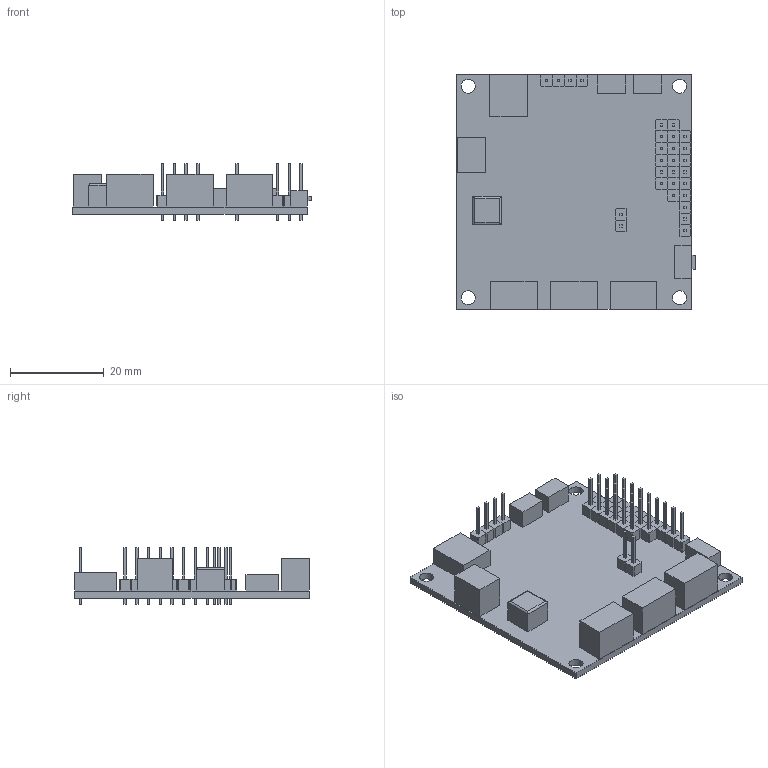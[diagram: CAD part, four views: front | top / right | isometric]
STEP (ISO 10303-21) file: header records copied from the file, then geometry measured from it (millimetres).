
FILE_DESCRIPTION (( 'STEP AP214' ), '1' );
FILE_NAME ('Regular revB.STEP', '2019-07-31T12:04:31', ( '' ), ( '' ), 'SwSTEP 2.0', 'SolidWorks 2018', '' );
FILE_SCHEMA (( 'AUTOMOTIVE_DESIGN' ));
Length unit declared in the file: millimetre
Products named in the file (1): Regular revB
Bounding box: 50.9 x 50 x 12 mm (x, y, z)
Volume: 6546.4 mm3; surface area: 9170 mm2
Topology: 67 solids, 67 shells, 526 faces, 1172 edges, 780 vertices
Faces by surface type: plane 514, cylinder 12
Entity records: 14904 total; most frequent: CARTESIAN_POINT 2491, ORIENTED_EDGE 2344, DIRECTION 2238, EDGE_CURVE 1172, VECTOR 1152, LINE 1152, VERTEX_POINT 780, AXIS2_PLACEMENT_3D 543
